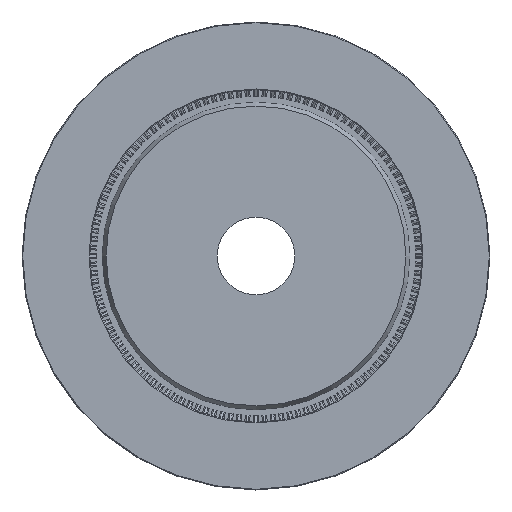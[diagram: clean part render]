
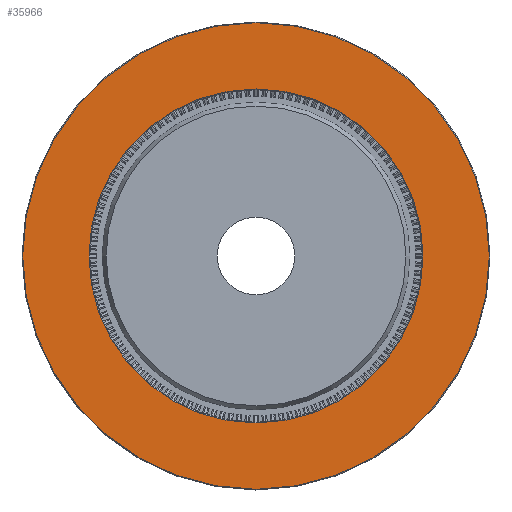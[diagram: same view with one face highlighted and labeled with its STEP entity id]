
A CAD part, top view. The second image highlights one B-rep face of the part: STEP entity #35966.
In plain terms, the highlighted planar face has unit normal (0, 0, 1).
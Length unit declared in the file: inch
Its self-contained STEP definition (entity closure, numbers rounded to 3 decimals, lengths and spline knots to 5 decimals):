
#226 = DIRECTION ( 'NONE',  ( 0., 0., 1. ) ) ;
#1047 = DIRECTION ( 'NONE',  ( -1., 0., 0. ) ) ;
#1302 = AXIS2_PLACEMENT_3D ( 'NONE', #25081, #44358, #1047 ) ;
#3109 = CIRCLE ( 'NONE', #41448, 10.52 ) ;
#4067 = DIRECTION ( 'NONE',  ( -1., 0., 0. ) ) ;
#4713 = VERTEX_POINT ( 'NONE', #61994 ) ;
#6549 = CARTESIAN_POINT ( 'NONE',  ( 10.52, 0., 1.25 ) ) ;
#7182 = DIRECTION ( 'NONE',  ( 0., 0., -1. ) ) ;
#7381 = CIRCLE ( 'NONE', #1302, 7.53 ) ;
#7388 = ORIENTED_EDGE ( 'NONE', *, *, #60578, .T. ) ;
#11672 = AXIS2_PLACEMENT_3D ( 'NONE', #37659, #56644, #47148 ) ;
#12769 = DIRECTION ( 'NONE',  ( 0., 0., -1. ) ) ;
#13227 = AXIS2_PLACEMENT_3D ( 'NONE', #54876, #7182, #60265 ) ;
#14020 = FACE_OUTER_BOUND ( 'NONE', #45495, .T. ) ;
#16479 = VERTEX_POINT ( 'NONE', #55665 ) ;
#18552 = EDGE_CURVE ( 'NONE', #32072, #44929, #3109, .T. ) ;
#24115 = ORIENTED_EDGE ( 'NONE', *, *, #18552, .T. ) ;
#25081 = CARTESIAN_POINT ( 'NONE',  ( 0., 0., 1.25 ) ) ;
#30389 = CIRCLE ( 'NONE', #13227, 7.53 ) ;
#31641 = AXIS2_PLACEMENT_3D ( 'NONE', #60812, #12769, #32031 ) ;
#32031 = DIRECTION ( 'NONE',  ( -1., 0., 0. ) ) ;
#32072 = VERTEX_POINT ( 'NONE', #6549 ) ;
#32891 = CIRCLE ( 'NONE', #11672, 10.52 ) ;
#32982 = FACE_BOUND ( 'NONE', #35769, .T. ) ;
#33750 = CARTESIAN_POINT ( 'NONE',  ( 0., 0., 1.25 ) ) ;
#35769 = EDGE_LOOP ( 'NONE', ( #7388, #46332 ) ) ;
#35966 = ADVANCED_FACE ( 'NONE', ( #32982, #14020 ), #41519, .F. ) ;
#37659 = CARTESIAN_POINT ( 'NONE',  ( 0., 0., 1.25 ) ) ;
#41448 = AXIS2_PLACEMENT_3D ( 'NONE', #33750, #226, #4067 ) ;
#41519 = PLANE ( 'NONE',  #31641 ) ;
#41613 = EDGE_CURVE ( 'NONE', #4713, #16479, #7381, .T. ) ;
#44358 = DIRECTION ( 'NONE',  ( 0., 0., -1. ) ) ;
#44636 = EDGE_CURVE ( 'NONE', #44929, #32072, #32891, .T. ) ;
#44929 = VERTEX_POINT ( 'NONE', #53127 ) ;
#45495 = EDGE_LOOP ( 'NONE', ( #46740, #24115 ) ) ;
#46332 = ORIENTED_EDGE ( 'NONE', *, *, #41613, .T. ) ;
#46740 = ORIENTED_EDGE ( 'NONE', *, *, #44636, .T. ) ;
#47148 = DIRECTION ( 'NONE',  ( -1., 0., 0. ) ) ;
#53127 = CARTESIAN_POINT ( 'NONE',  ( -10.52, 0., 1.25 ) ) ;
#54876 = CARTESIAN_POINT ( 'NONE',  ( 0., 0., 1.25 ) ) ;
#55665 = CARTESIAN_POINT ( 'NONE',  ( 7.53, 0., 1.25 ) ) ;
#56644 = DIRECTION ( 'NONE',  ( 0., 0., 1. ) ) ;
#60265 = DIRECTION ( 'NONE',  ( -1., 0., 0. ) ) ;
#60578 = EDGE_CURVE ( 'NONE', #16479, #4713, #30389, .T. ) ;
#60812 = CARTESIAN_POINT ( 'NONE',  ( 0., 10.55, 1.25 ) ) ;
#61994 = CARTESIAN_POINT ( 'NONE',  ( -7.53, 0., 1.25 ) ) ;
